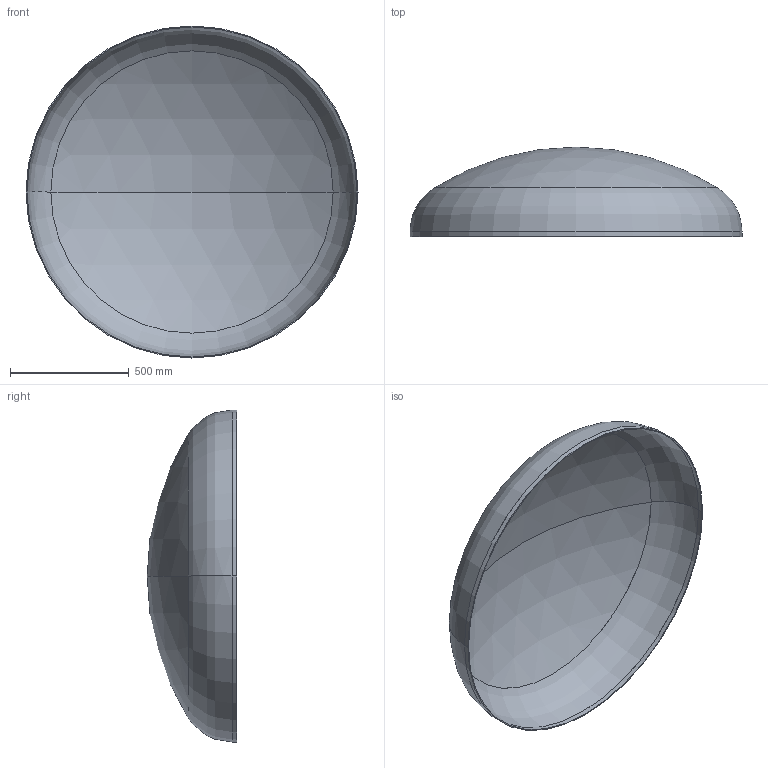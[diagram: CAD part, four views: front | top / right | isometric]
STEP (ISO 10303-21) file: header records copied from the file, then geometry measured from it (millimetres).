
FILE_DESCRIPTION (( 'STEP AP203' ), '1' );
FILE_NAME ('DIN 28013 Korbbogenform_-_Boden DIN 28013 - 1400 x 20 - I - s=4.step', '2016-07-01T10:05:30', ( '' ), ( '' ), 'SwSTEP 2.0', 'SolidWorks 2013', '' );
FILE_SCHEMA (( 'CONFIG_CONTROL_DESIGN' ));
Length unit declared in the file: millimetre
Products named in the file (1): DIN 28013 Korbbogenform_-_Boden DIN 28013 - 1400 x 20 - I - s=4
Bounding box: 1400 x 377.41 x 1400 mm (x, y, z)
Volume: 8842806.4 mm3; surface area: 4438977.6 mm2
Topology: 1 solids, 1 shells, 13 faces, 24 edges, 14 vertices
Faces by surface type: torus 4, cylinder 4, sphere 4, plane 1
Entity records: 407 total; most frequent: DIRECTION 72, CARTESIAN_POINT 52, ORIENTED_EDGE 48, AXIS2_PLACEMENT_3D 34, EDGE_CURVE 24, CIRCLE 20, VERTEX_POINT 14, EDGE_LOOP 14
